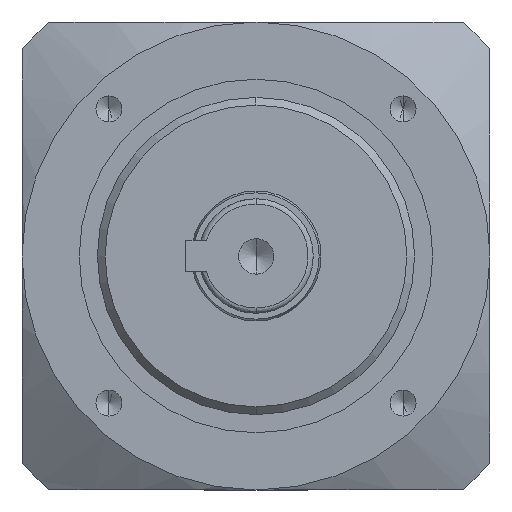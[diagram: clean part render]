
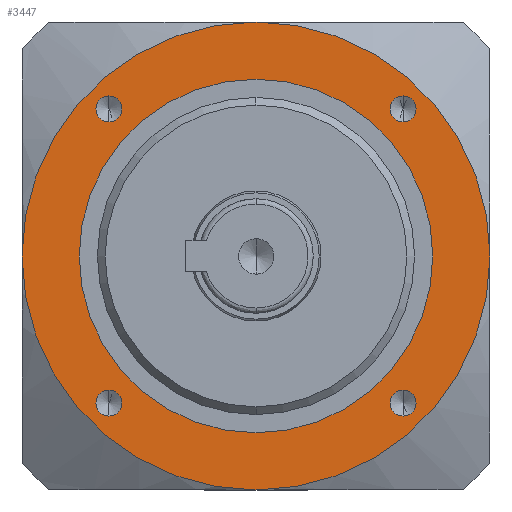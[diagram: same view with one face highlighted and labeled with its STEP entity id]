
A CAD part, left-side view. The second image highlights one B-rep face of the part: STEP entity #3447.
In plain terms, the highlighted planar face has unit normal (-1, 0, 0).
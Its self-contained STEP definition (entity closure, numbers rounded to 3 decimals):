
#30 = ORIENTED_EDGE ( 'NONE', *, *, #2736, .F. ) ;
#50 = PLANE ( 'NONE',  #2467 ) ;
#55 = ORIENTED_EDGE ( 'NONE', *, *, #2485, .F. ) ;
#78 = CIRCLE ( 'NONE', #1081, 34. ) ;
#94 = DIRECTION ( 'NONE',  ( 0., 0., 1. ) ) ;
#121 = DIRECTION ( 'NONE',  ( 0., 0., 1. ) ) ;
#153 = DIRECTION ( 'NONE',  ( 0., 0., 1. ) ) ;
#173 = VERTEX_POINT ( 'NONE', #2236 ) ;
#178 = EDGE_CURVE ( 'NONE', #2560, #173, #1618, .T. ) ;
#227 = VERTEX_POINT ( 'NONE', #916 ) ;
#247 = CARTESIAN_POINT ( 'NONE',  ( 20.997, 28.284, -30.784 ) ) ;
#300 = AXIS2_PLACEMENT_3D ( 'NONE', #1365, #813, #539 ) ;
#312 = DIRECTION ( 'NONE',  ( 0., 0., -1. ) ) ;
#365 = CARTESIAN_POINT ( 'NONE',  ( 20.997, -28.284, 28.284 ) ) ;
#421 = DIRECTION ( 'NONE',  ( -1., 0., 0. ) ) ;
#539 = DIRECTION ( 'NONE',  ( 0., 0., -1. ) ) ;
#542 = CARTESIAN_POINT ( 'NONE',  ( 20.997, 28.284, 30.784 ) ) ;
#544 = DIRECTION ( 'NONE',  ( 1., 0., 0. ) ) ;
#565 = CARTESIAN_POINT ( 'NONE',  ( 20.997, 0., 0. ) ) ;
#594 = FACE_BOUND ( 'NONE', #1257, .T. ) ;
#649 = CARTESIAN_POINT ( 'NONE',  ( 20.997, -28.284, -28.284 ) ) ;
#653 = ORIENTED_EDGE ( 'NONE', *, *, #1246, .T. ) ;
#686 = CARTESIAN_POINT ( 'NONE',  ( 20.997, -28.284, -28.284 ) ) ;
#707 = AXIS2_PLACEMENT_3D ( 'NONE', #988, #1794, #2577 ) ;
#715 = EDGE_CURVE ( 'NONE', #1748, #1683, #1418, .T. ) ;
#776 = CIRCLE ( 'NONE', #2235, 2.5 ) ;
#813 = DIRECTION ( 'NONE',  ( 1., 0., 0. ) ) ;
#834 = CARTESIAN_POINT ( 'NONE',  ( 20.997, -28.284, 25.784 ) ) ;
#861 = DIRECTION ( 'NONE',  ( 1., 0., 0. ) ) ;
#916 = CARTESIAN_POINT ( 'NONE',  ( 20.997, 28.284, 25.784 ) ) ;
#988 = CARTESIAN_POINT ( 'NONE',  ( 20.997, 28.284, 28.284 ) ) ;
#991 = DIRECTION ( 'NONE',  ( -1., 0., 0. ) ) ;
#1005 = AXIS2_PLACEMENT_3D ( 'NONE', #565, #861, #312 ) ;
#1010 = EDGE_CURVE ( 'NONE', #2890, #1634, #78, .T. ) ;
#1043 = ORIENTED_EDGE ( 'NONE', *, *, #1823, .F. ) ;
#1081 = AXIS2_PLACEMENT_3D ( 'NONE', #2288, #3352, #1194 ) ;
#1172 = CARTESIAN_POINT ( 'NONE',  ( 20.997, 0., 45. ) ) ;
#1174 = CARTESIAN_POINT ( 'NONE',  ( 20.997, 28.284, 28.284 ) ) ;
#1194 = DIRECTION ( 'NONE',  ( 0., 0., -1. ) ) ;
#1242 = CIRCLE ( 'NONE', #1005, 45. ) ;
#1246 = EDGE_CURVE ( 'NONE', #1634, #2890, #2447, .T. ) ;
#1257 = EDGE_LOOP ( 'NONE', ( #3321, #1043 ) ) ;
#1260 = VERTEX_POINT ( 'NONE', #1920 ) ;
#1265 = AXIS2_PLACEMENT_3D ( 'NONE', #649, #421, #3322 ) ;
#1297 = EDGE_CURVE ( 'NONE', #227, #2859, #3418, .T. ) ;
#1309 = ORIENTED_EDGE ( 'NONE', *, *, #1010, .T. ) ;
#1330 = CARTESIAN_POINT ( 'NONE',  ( 20.997, 0., -34. ) ) ;
#1361 = CIRCLE ( 'NONE', #2330, 2.5 ) ;
#1365 = CARTESIAN_POINT ( 'NONE',  ( 20.997, 0., 0. ) ) ;
#1395 = CARTESIAN_POINT ( 'NONE',  ( 20.997, 0., 0. ) ) ;
#1412 = DIRECTION ( 'NONE',  ( -1., 0., 0. ) ) ;
#1418 = CIRCLE ( 'NONE', #1265, 2.5 ) ;
#1442 = CIRCLE ( 'NONE', #3035, 2.5 ) ;
#1452 = DIRECTION ( 'NONE',  ( -1., 0., 0. ) ) ;
#1482 = FACE_BOUND ( 'NONE', #3314, .T. ) ;
#1501 = EDGE_CURVE ( 'NONE', #173, #2560, #776, .T. ) ;
#1529 = EDGE_CURVE ( 'NONE', #3234, #3263, #1690, .T. ) ;
#1618 = CIRCLE ( 'NONE', #2762, 2.5 ) ;
#1634 = VERTEX_POINT ( 'NONE', #2801 ) ;
#1635 = DIRECTION ( 'NONE',  ( 0., 0., -1. ) ) ;
#1683 = VERTEX_POINT ( 'NONE', #3059 ) ;
#1690 = CIRCLE ( 'NONE', #2614, 2.5 ) ;
#1748 = VERTEX_POINT ( 'NONE', #3204 ) ;
#1766 = CIRCLE ( 'NONE', #707, 2.5 ) ;
#1794 = DIRECTION ( 'NONE',  ( -1., 0., 0. ) ) ;
#1810 = FACE_OUTER_BOUND ( 'NONE', #1893, .T. ) ;
#1813 = ORIENTED_EDGE ( 'NONE', *, *, #715, .F. ) ;
#1818 = AXIS2_PLACEMENT_3D ( 'NONE', #1395, #544, #1889 ) ;
#1823 = EDGE_CURVE ( 'NONE', #3263, #3234, #1361, .T. ) ;
#1889 = DIRECTION ( 'NONE',  ( 0., 0., -1. ) ) ;
#1893 = EDGE_LOOP ( 'NONE', ( #2248, #55 ) ) ;
#1894 = CARTESIAN_POINT ( 'NONE',  ( 20.997, 0., 0. ) ) ;
#1920 = CARTESIAN_POINT ( 'NONE',  ( 20.997, 0., -45. ) ) ;
#1935 = CARTESIAN_POINT ( 'NONE',  ( 20.997, -28.284, 28.284 ) ) ;
#1937 = ORIENTED_EDGE ( 'NONE', *, *, #178, .F. ) ;
#2116 = EDGE_LOOP ( 'NONE', ( #2335, #2777 ) ) ;
#2119 = CARTESIAN_POINT ( 'NONE',  ( 20.997, 28.284, -28.284 ) ) ;
#2125 = DIRECTION ( 'NONE',  ( 1., 0., 0. ) ) ;
#2129 = EDGE_LOOP ( 'NONE', ( #1813, #30 ) ) ;
#2187 = DIRECTION ( 'NONE',  ( 0., 0., 1. ) ) ;
#2220 = CARTESIAN_POINT ( 'NONE',  ( 20.997, 28.284, -28.284 ) ) ;
#2235 = AXIS2_PLACEMENT_3D ( 'NONE', #1935, #1412, #94 ) ;
#2236 = CARTESIAN_POINT ( 'NONE',  ( 20.997, -28.284, 30.784 ) ) ;
#2248 = ORIENTED_EDGE ( 'NONE', *, *, #2429, .F. ) ;
#2281 = CARTESIAN_POINT ( 'NONE',  ( 20.997, 28.284, -25.784 ) ) ;
#2288 = CARTESIAN_POINT ( 'NONE',  ( 20.997, 0., 0. ) ) ;
#2330 = AXIS2_PLACEMENT_3D ( 'NONE', #2119, #991, #2858 ) ;
#2335 = ORIENTED_EDGE ( 'NONE', *, *, #3207, .F. ) ;
#2429 = EDGE_CURVE ( 'NONE', #1260, #3011, #2619, .T. ) ;
#2430 = FACE_BOUND ( 'NONE', #2461, .T. ) ;
#2447 = CIRCLE ( 'NONE', #1818, 34. ) ;
#2461 = EDGE_LOOP ( 'NONE', ( #1309, #653 ) ) ;
#2467 = AXIS2_PLACEMENT_3D ( 'NONE', #1894, #2125, #1635 ) ;
#2470 = DIRECTION ( 'NONE',  ( 0., 0., 1. ) ) ;
#2485 = EDGE_CURVE ( 'NONE', #3011, #1260, #1242, .T. ) ;
#2502 = DIRECTION ( 'NONE',  ( -1., 0., 0. ) ) ;
#2526 = FACE_BOUND ( 'NONE', #2116, .T. ) ;
#2560 = VERTEX_POINT ( 'NONE', #834 ) ;
#2577 = DIRECTION ( 'NONE',  ( 0., 0., 1. ) ) ;
#2612 = ORIENTED_EDGE ( 'NONE', *, *, #1501, .F. ) ;
#2614 = AXIS2_PLACEMENT_3D ( 'NONE', #2220, #2502, #2187 ) ;
#2619 = CIRCLE ( 'NONE', #300, 45. ) ;
#2736 = EDGE_CURVE ( 'NONE', #1683, #1748, #1442, .T. ) ;
#2762 = AXIS2_PLACEMENT_3D ( 'NONE', #365, #2793, #121 ) ;
#2777 = ORIENTED_EDGE ( 'NONE', *, *, #1297, .F. ) ;
#2793 = DIRECTION ( 'NONE',  ( -1., 0., 0. ) ) ;
#2801 = CARTESIAN_POINT ( 'NONE',  ( 20.997, 0., 34. ) ) ;
#2830 = DIRECTION ( 'NONE',  ( -1., 0., 0. ) ) ;
#2858 = DIRECTION ( 'NONE',  ( 0., 0., 1. ) ) ;
#2859 = VERTEX_POINT ( 'NONE', #542 ) ;
#2890 = VERTEX_POINT ( 'NONE', #1330 ) ;
#2937 = FACE_BOUND ( 'NONE', #2129, .T. ) ;
#3011 = VERTEX_POINT ( 'NONE', #1172 ) ;
#3035 = AXIS2_PLACEMENT_3D ( 'NONE', #686, #2830, #153 ) ;
#3059 = CARTESIAN_POINT ( 'NONE',  ( 20.997, -28.284, -30.784 ) ) ;
#3204 = CARTESIAN_POINT ( 'NONE',  ( 20.997, -28.284, -25.784 ) ) ;
#3207 = EDGE_CURVE ( 'NONE', #2859, #227, #1766, .T. ) ;
#3234 = VERTEX_POINT ( 'NONE', #2281 ) ;
#3263 = VERTEX_POINT ( 'NONE', #247 ) ;
#3314 = EDGE_LOOP ( 'NONE', ( #2612, #1937 ) ) ;
#3321 = ORIENTED_EDGE ( 'NONE', *, *, #1529, .F. ) ;
#3322 = DIRECTION ( 'NONE',  ( 0., 0., 1. ) ) ;
#3323 = AXIS2_PLACEMENT_3D ( 'NONE', #1174, #1452, #2470 ) ;
#3352 = DIRECTION ( 'NONE',  ( 1., 0., 0. ) ) ;
#3418 = CIRCLE ( 'NONE', #3323, 2.5 ) ;
#3447 = ADVANCED_FACE ( 'NONE', ( #594, #2937, #1482, #2526, #1810, #2430 ), #50, .F. ) ;
